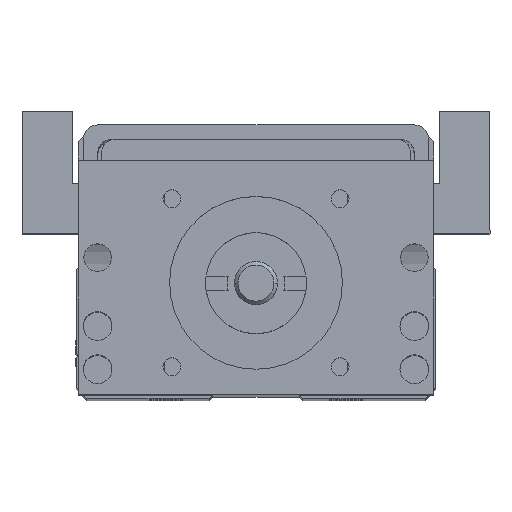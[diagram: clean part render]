
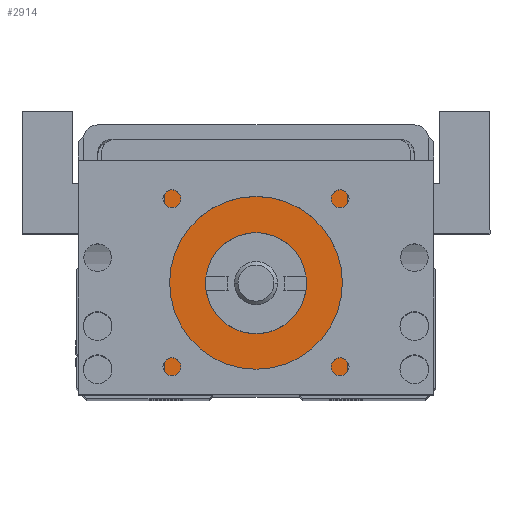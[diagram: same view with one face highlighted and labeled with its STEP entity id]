
A CAD part, top view. The second image highlights one B-rep face of the part: STEP entity #2914.
In plain terms, the highlighted planar face has unit normal (0, 0, 1).
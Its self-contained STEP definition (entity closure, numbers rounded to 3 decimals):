
#2895 = VERTEX_POINT ( 'NONE', #8104 ) ;
#2896 = EDGE_LOOP ( 'NONE', ( #2910, #2922 ) ) ;
#2897 = VERTEX_POINT ( 'NONE', #8086 ) ;
#2898 = ORIENTED_EDGE ( 'NONE', *, *, #2909, .T. ) ;
#2899 = VERTEX_POINT ( 'NONE', #8089 ) ;
#2900 = VERTEX_POINT ( 'NONE', #8098 ) ;
#2901 = EDGE_CURVE ( 'NONE', #2900, #2899, #8083, .T. ) ;
#2902 = ORIENTED_EDGE ( 'NONE', *, *, #2905, .F. ) ;
#2903 = ORIENTED_EDGE ( 'NONE', *, *, #2901, .T. ) ;
#2904 = EDGE_LOOP ( 'NONE', ( #2902, #2903, #2906, #2898 ) ) ;
#2905 = EDGE_CURVE ( 'NONE', #2900, #2897, #8097, .T. ) ;
#2906 = ORIENTED_EDGE ( 'NONE', *, *, #2974, .T. ) ;
#2909 = EDGE_CURVE ( 'NONE', #2895, #2897, #8137, .T. ) ;
#2910 = ORIENTED_EDGE ( 'NONE', *, *, #2975, .F. ) ;
#2914 = ADVANCED_FACE ( 'NONE', ( #8082, #8126 ), #8076, .F. ) ;
#2922 = ORIENTED_EDGE ( 'NONE', *, *, #10424, .F. ) ;
#2974 = EDGE_CURVE ( 'NONE', #2899, #2895, #8218, .T. ) ;
#2975 = EDGE_CURVE ( 'NONE', #10432, #10426, #7214, .T. ) ;
#7214 = CIRCLE ( 'NONE', #7215, 7. ) ;
#7215 = AXIS2_PLACEMENT_3D ( 'NONE', #7219, #7231, #7464 ) ;
#7219 = CARTESIAN_POINT ( 'NONE',  ( 0., 16., 96.5 ) ) ;
#7231 = DIRECTION ( 'NONE',  ( 0., 0., 1. ) ) ;
#7464 = DIRECTION ( 'NONE',  ( -1., 0., 0. ) ) ;
#8074 = DIRECTION ( 'NONE',  ( -1., 0., 0. ) ) ;
#8075 = VECTOR ( 'NONE', #8074, 1000. ) ;
#8076 = PLANE ( 'NONE',  #8127 ) ;
#8078 = DIRECTION ( 'NONE',  ( 0., 1., 0. ) ) ;
#8079 = VECTOR ( 'NONE', #8078, 1000. ) ;
#8080 = CARTESIAN_POINT ( 'NONE',  ( 12.7, 33., 96.5 ) ) ;
#8082 = FACE_OUTER_BOUND ( 'NONE', #2904, .T. ) ;
#8083 = LINE ( 'NONE', #8080, #8079 ) ;
#8086 = CARTESIAN_POINT ( 'NONE',  ( -12.7, 0.5, 96.5 ) ) ;
#8089 = CARTESIAN_POINT ( 'NONE',  ( 12.7, 33., 96.5 ) ) ;
#8096 = CARTESIAN_POINT ( 'NONE',  ( -6.008, 0.5, 96.5 ) ) ;
#8097 = LINE ( 'NONE', #8096, #8075 ) ;
#8098 = CARTESIAN_POINT ( 'NONE',  ( 12.7, 0.5, 96.5 ) ) ;
#8104 = CARTESIAN_POINT ( 'NONE',  ( -12.7, 33., 96.5 ) ) ;
#8119 = DIRECTION ( 'NONE',  ( -1., 0., 0. ) ) ;
#8120 = DIRECTION ( 'NONE',  ( 0., 0., -1. ) ) ;
#8121 = CARTESIAN_POINT ( 'NONE',  ( -14.7, 0., 96.5 ) ) ;
#8126 = FACE_BOUND ( 'NONE', #2896, .T. ) ;
#8127 = AXIS2_PLACEMENT_3D ( 'NONE', #8121, #8120, #8119 ) ;
#8130 = DIRECTION ( 'NONE',  ( 0., -1., 0. ) ) ;
#8131 = VECTOR ( 'NONE', #8130, 1000. ) ;
#8132 = CARTESIAN_POINT ( 'NONE',  ( -12.7, 0.5, 96.5 ) ) ;
#8137 = LINE ( 'NONE', #8132, #8131 ) ;
#8200 = DIRECTION ( 'NONE',  ( -1., 0., 0. ) ) ;
#8201 = VECTOR ( 'NONE', #8200, 1000. ) ;
#8203 = CARTESIAN_POINT ( 'NONE',  ( -14.7, 33., 96.5 ) ) ;
#8218 = LINE ( 'NONE', #8203, #8201 ) ;
#8905 = DIRECTION ( 'NONE',  ( -1., 0., 0. ) ) ;
#8906 = DIRECTION ( 'NONE',  ( 0., 0., 1. ) ) ;
#8907 = AXIS2_PLACEMENT_3D ( 'NONE', #8914, #8906, #8905 ) ;
#8910 = CARTESIAN_POINT ( 'NONE',  ( -7., 16., 96.5 ) ) ;
#8914 = CARTESIAN_POINT ( 'NONE',  ( 0., 16., 96.5 ) ) ;
#8915 = CIRCLE ( 'NONE', #8907, 7. ) ;
#8917 = CARTESIAN_POINT ( 'NONE',  ( 7., 16., 96.5 ) ) ;
#10424 = EDGE_CURVE ( 'NONE', #10426, #10432, #8915, .T. ) ;
#10426 = VERTEX_POINT ( 'NONE', #8917 ) ;
#10432 = VERTEX_POINT ( 'NONE', #8910 ) ;
